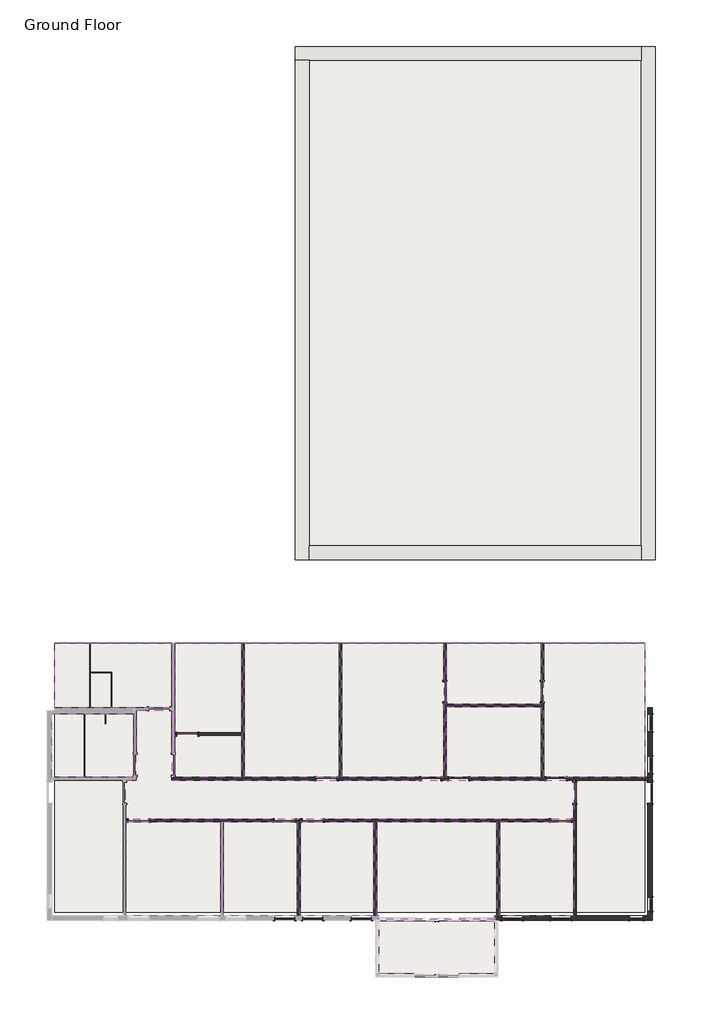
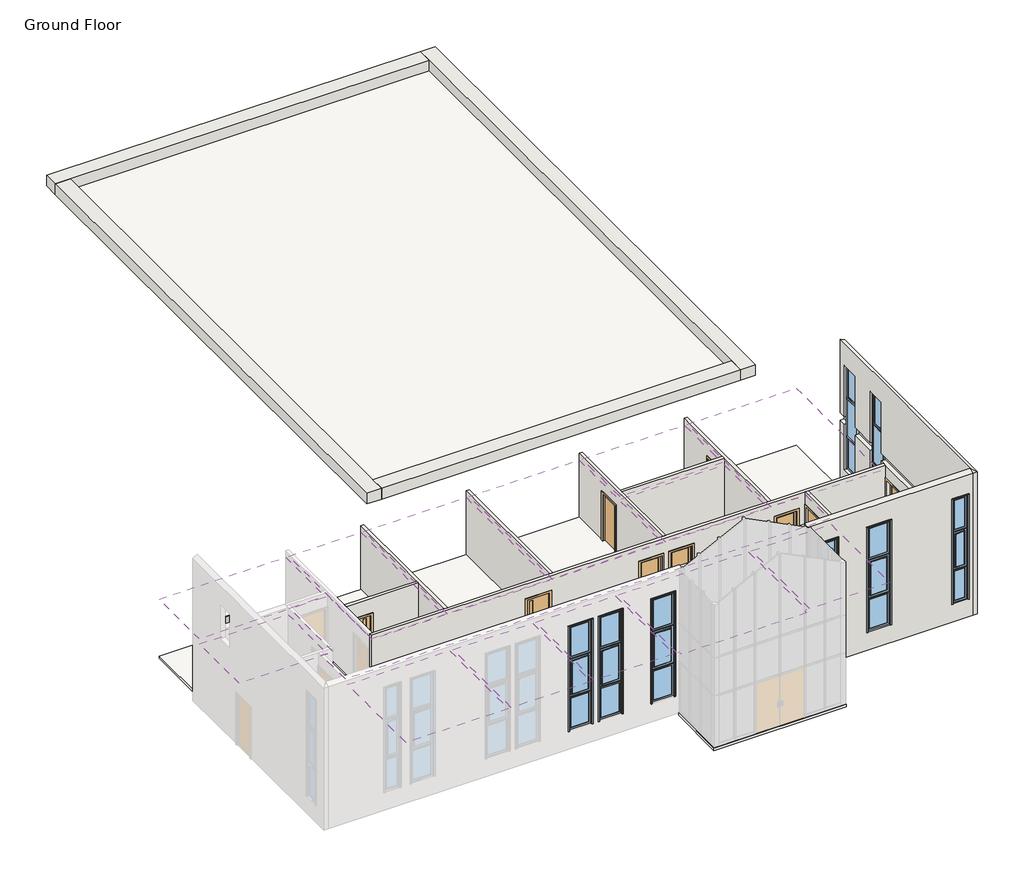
# One storey, part 3 of 3: 18 walls, 16 coverings, 12 doors, 9 windows, 4 proxies, 3 slabs.
"""IFC4 building model written with IfcOpenShell, lengths in millimetres."""

from ifc_helpers import new_model, si_unit, frame, origin, place, context, project, spatial, polyline, outline, extrude, faceted_brep, transform, mapped, element, save
from components import proxy_7c43ef90, toilet_stall_accessible_side2_3d_80249481, proxy_be33b337, urinal_screen_3d_0714b669, door_ecd1ec3f, door_2f6dbc15, door_8f6ecfa2, door_0094a902, door_1467a2ec, door_2696ad5b, door_2dc82d73, door_9b494dca, window_8adb934c, window_1e283364, window_fc414b9c

model = new_model("IFC4")

# Units and contexts
model_context = context("Model", 3, world=origin())
ifc_project = project(units=[si_unit("LENGTHUNIT", "METRE", prefix="MILLI")], contexts=[model_context])

# Site, building, storey
site = spatial("IfcSite", under=ifc_project)
building = spatial("IfcBuilding", under=site)
storey = spatial("IfcBuildingStorey", under=building, Name="Ground Floor", Elevation=39624.0)

# Proxies
placement = place(None, origin())
proxy_shape = proxy_7c43ef90(model_context)
element("IfcBuildingElementProxy", 1, Name="Toilet Stall-3D : 36\" x 60\" Clear", ObjectType="Toilet Stall-3D : 36\" x 60\" Clear", at=placement, inside=storey, context=model_context, shape_type="MappedRepresentation", body=[
    mapped(proxy_shape, transform((-23082.1885798, -6877.1269844, 39624.0), x_axis=(-1.0, 0.0, 0.0), y_axis=(0.0, -1.0, 0.0), z_axis=(0.0, 0.0, 1.0))),
])
toilet_stall_accessible_side2_3d_shape = toilet_stall_accessible_side2_3d_80249481(model_context)
element("IfcBuildingElementProxy", 2, Name="Toilet Stall-Accessible-Side2-3D : 60\" x  110\"", ObjectType="Toilet Stall-Accessible-Side2-3D : 60\" x  110\"", at=placement, inside=storey, context=model_context, shape_type="MappedRepresentation", body=[
    mapped(toilet_stall_accessible_side2_3d_shape, transform((-24874.4760798, -6877.1269844, 39624.0), x_axis=(-1.0, 0.0, 0.0), y_axis=(0.0, -1.0, 0.0), z_axis=(0.0, 0.0, 1.0))),
])
proxy_2_shape = proxy_be33b337(model_context)
element("IfcBuildingElementProxy", 3, Name="Toilet Stall-Accessible-Side2-3D : 60\" x 111\" Clear", ObjectType="Toilet Stall-Accessible-Side2-3D : 60\" x 111\" Clear", at=placement, inside=storey, context=model_context, shape_type="MappedRepresentation", body=[
    mapped(proxy_2_shape, transform((-24631.5885798, -6877.1269844, 39624.0), x_axis=(-1.0, 0.0, 0.0), y_axis=(0.0, -1.0, 0.0), z_axis=(0.0, 0.0, 1.0))),
])
urinal_screen_3d_shape = urinal_screen_3d_0714b669(model_context)
element("IfcBuildingElementProxy", 4, Name="Urinal Screen-3D : 36\" O.C.", ObjectType="Urinal Screen-3D : 36\" O.C.", at=placement, inside=storey, context=model_context, shape_type="MappedRepresentation", body=[
    mapped(urinal_screen_3d_shape, transform((-23272.7792336, -6877.1269844, 39624.0), x_axis=(-1.0, 0.0, 0.0), y_axis=(0.0, -1.0, 0.0), z_axis=(0.0, 0.0, 1.0))),
])

# Coverings
element("IfcCovering", 5, ObjectType="2' x 2' ACT System", at=placement, inside=storey, context=model_context, shape_type="SweptSolid", body=[
    extrude(outline(polyline([(-14763.7792336, -11750.7519844), (-11534.8042336, -11750.7519844), (-11534.8042336, -15862.3769844), (-14763.7792336, -15862.3769844), (-14763.7792336, -11750.7519844)])), frame((0.0, 0.0, 42062.4), z_axis=(0.0, 0.0, 1.0), x_axis=(1.0, 0.0, 0.0)), (0.0, 0.0, 1.0), 57.15),
])
element("IfcCovering", 6, ObjectType="2' x 2' ACT System", at=placement, inside=storey, context=model_context, shape_type="SweptSolid", body=[
    extrude(outline(polyline([(-20250.1792336, -9798.1269844), (-20250.1792336, -3927.5519844), (-17326.0042336, -3927.5519844), (-17326.0042336, -9798.1269844), (-20250.1792336, -9798.1269844)])), frame((0.0, 0.0, 42062.4), z_axis=(0.0, 0.0, 1.0), x_axis=(1.0, 0.0, 0.0)), (0.0, 0.0, 1.0), 57.15),
])
element("IfcCovering", 7, ObjectType="2' x 2' ACT System", at=placement, inside=storey, context=model_context, shape_type="SweptSolid", body=[
    extrude(outline(polyline([(-17202.1792336, -9798.1269844), (-17202.1792336, -3927.5519844), (-13058.8042336, -3927.5519844), (-13058.8042336, -9798.1269844), (-17202.1792336, -9798.1269844)])), frame((0.0, 0.0, 42062.4), z_axis=(0.0, 0.0, 1.0), x_axis=(1.0, 0.0, 0.0)), (0.0, 0.0, 1.0), 57.15),
])
element("IfcCovering", 8, ObjectType="2' x 2' ACT System", at=placement, inside=storey, context=model_context, shape_type="SweptSolid", body=[
    extrude(outline(polyline([(-12934.9792336, -9798.1269844), (-12934.9792336, -3927.5519844), (-8486.8042336, -3927.5519844), (-8486.8042336, -9798.1269844), (-12934.9792336, -9798.1269844)])), frame((0.0, 0.0, 42062.4), z_axis=(0.0, 0.0, 1.0), x_axis=(1.0, 0.0, 0.0)), (0.0, 0.0, 1.0), 57.15),
])
element("IfcCovering", 9, ObjectType="2' x 2' ACT System", at=placement, inside=storey, context=model_context, shape_type="SweptSolid", body=[
    extrude(outline(polyline([(-8362.9792336, -6597.7269844), (-8362.9792336, -3927.5519844), (-4219.6042336, -3927.5519844), (-4219.6042336, -6597.7269844), (-8362.9792336, -6597.7269844)])), frame((0.0, 0.0, 42062.4), z_axis=(0.0, 0.0, 1.0), x_axis=(1.0, 0.0, 0.0)), (0.0, 0.0, 1.0), 57.15),
])
element("IfcCovering", 10, ObjectType="2' x 2' ACT System", at=placement, inside=storey, context=model_context, shape_type="SweptSolid", body=[
    extrude(outline(polyline([(-4219.6042336, -9798.1269844), (-8362.9792336, -9798.1269844), (-8362.9792336, -6721.5519844), (-4219.6042336, -6721.5519844), (-4219.6042336, -9798.1269844)])), frame((0.0, 0.0, 42062.4), z_axis=(0.0, 0.0, 1.0), x_axis=(1.0, 0.0, 0.0)), (0.0, 0.0, 1.0), 57.15),
])
element("IfcCovering", 11, ObjectType="2' x 2' ACT System", at=placement, inside=storey, context=model_context, shape_type="SweptSolid", body=[
    extrude(outline(polyline([(-4095.7792336, -9798.1269844), (-4095.7792336, -3927.5519844), (312.7082664, -3927.5519844), (312.7082664, -9798.1269844), (-4095.7792336, -9798.1269844)])), frame((0.0, 0.0, 42062.4), z_axis=(0.0, 0.0, 1.0), x_axis=(1.0, 0.0, 0.0)), (0.0, 0.0, 1.0), 57.15),
])
element("IfcCovering", 12, ObjectType="2' x 2' ACT System", at=placement, inside=storey, context=model_context, shape_type="SweptSolid", body=[
    extrude(outline(polyline([(-2797.2042336, -11750.7519844), (-2797.2042336, -15862.3769844), (-6026.1792336, -15862.3769844), (-6026.1792336, -11750.7519844), (-2797.2042336, -11750.7519844)])), frame((0.0, 0.0, 42062.4), z_axis=(0.0, 0.0, 1.0), x_axis=(1.0, 0.0, 0.0)), (0.0, 0.0, 1.0), 57.15),
])
element("IfcCovering", 13, ObjectType="2' x 2' ACT System", at=placement, inside=storey, context=model_context, shape_type="SweptSolid", body=[
    extrude(outline(polyline([(-18116.5792336, -11750.7519844), (-14887.6042336, -11750.7519844), (-14887.6042336, -15862.3769844), (-18116.5792336, -15862.3769844), (-18116.5792336, -11750.7519844)])), frame((0.0, 0.0, 42062.4), z_axis=(0.0, 0.0, 1.0), x_axis=(1.0, 0.0, 0.0)), (0.0, 0.0, 1.0), 57.15),
])
element("IfcCovering", 14, ObjectType="2' x 2' ACT System", at=placement, inside=storey, context=model_context, shape_type="SweptSolid", body=[
    extrude(outline(polyline([(-22383.7792336, -15862.3769844), (-22383.7792336, -11750.7519844), (-18240.4042336, -11750.7519844), (-18240.4042336, -15862.3769844), (-22383.7792336, -15862.3769844)])), frame((0.0, 0.0, 42062.4), z_axis=(0.0, 0.0, 1.0), x_axis=(1.0, 0.0, 0.0)), (0.0, 0.0, 1.0), 57.15),
])
element("IfcCovering", 15, ObjectType="GWB on Mtl. Stud", at=placement, inside=storey, context=model_context, shape_type="SweptSolid", body=[
    extrude(outline(polyline([(-25493.6917336, -3927.5519844), (-20374.0042336, -3927.5519844), (-20374.0042336, -6746.9519844), (-21988.4917336, -6746.9519844), (-25493.6917336, -6746.9519844), (-25493.6917336, -3927.5519844)])), frame((0.0, 0.0, 42062.4), z_axis=(0.0, 0.0, 1.0), x_axis=(1.0, 0.0, 0.0)), (0.0, 0.0, 1.0), 107.95),
])
element("IfcCovering", 16, ObjectType="GWB on Mtl. Stud", at=placement, inside=storey, context=model_context, shape_type="SweptSolid", body=[
    extrude(outline(polyline([(-22050.4042336, -9798.1269844), (-25642.9167336, -9798.1269844), (-25642.9167336, -7007.3019844), (-22050.4042336, -7007.3019844), (-22050.4042336, -9798.1269844)])), frame((0.0, 0.0, 42062.4), z_axis=(0.0, 0.0, 1.0), x_axis=(1.0, 0.0, 0.0)), (0.0, 0.0, 1.0), 107.95),
])
element("IfcCovering", 17, ObjectType="GWB on Mtl. Stud", at=placement, inside=storey, context=model_context, shape_type="SweptSolid", body=[
    extrude(outline(polyline([(-22383.7792336, -9921.9519844), (-21926.5792336, -9921.9519844), (-21926.5792336, -6870.7769844), (-20374.0042336, -6870.7769844), (-20374.0042336, -9921.9519844), (-2797.2042336, -9921.9519844), (-2797.2042336, -11626.9269844), (-22383.7792336, -11626.9269844), (-22383.7792336, -9921.9519844)])), frame((0.0, 0.0, 42214.8), z_axis=(0.0, 0.0, 1.0), x_axis=(1.0, 0.0, 0.0)), (0.0, 0.0, 1.0), 107.95),
])
element("IfcCovering", 18, ObjectType="GWB on Mtl. Stud", at=placement, inside=storey, context=model_context, shape_type="SweptSolid", body=[
    extrude(outline(polyline([(-25493.6917336, -3927.5519844), (-20374.0042336, -3927.5519844), (-20374.0042336, -6746.9519844), (-21988.4917336, -6746.9519844), (-25493.6917336, -6746.9519844), (-25493.6917336, -3927.5519844)])), frame((0.0, 0.0, 42062.4), z_axis=(0.0, 0.0, 1.0), x_axis=(1.0, 0.0, 0.0)), (0.0, 0.0, 1.0), 107.95),
])
element("IfcCovering", 19, ObjectType="GWB on Mtl. Stud", at=placement, inside=storey, context=model_context, shape_type="SweptSolid", body=[
    extrude(outline(polyline([(-22050.4042336, -9798.1269844), (-25642.9167336, -9798.1269844), (-25642.9167336, -7007.3019844), (-22050.4042336, -7007.3019844), (-22050.4042336, -9798.1269844)])), frame((0.0, 0.0, 42062.4), z_axis=(0.0, 0.0, 1.0), x_axis=(1.0, 0.0, 0.0)), (0.0, 0.0, 1.0), 107.95),
])
element("IfcCovering", 20, ObjectType="GWB on Mtl. Stud", at=placement, inside=storey, context=model_context, shape_type="SweptSolid", body=[
    extrude(outline(polyline([(-6150.0042336, -11750.7519844), (-6150.0042336, -15862.3769844), (-6245.2542336, -15862.3769844), (-6245.2542336, -16017.9519844), (-11315.7292336, -16017.9519844), (-11315.7292336, -15862.3769844), (-11410.9792336, -15862.3769844), (-11410.9792336, -11750.7519844), (-6150.0042336, -11750.7519844)])), frame((0.0, 0.0, 42062.4), z_axis=(0.0, 0.0, 1.0), x_axis=(1.0, 0.0, 0.0)), (0.0, 0.0, 1.0), 107.95),
])

# Doors
door_shape = door_ecd1ec3f(model_context)
element("IfcDoor", 21, ObjectType="Single-Flush : 34\" x 80\"", at=placement, inside=storey, context=model_context, shape_type="MappedRepresentation", body=[
    mapped(door_shape, transform((-8424.8917336, -6050.0394844, 39624.0), x_axis=(0.0, -1.0, 0.0), y_axis=(1.0, 0.0, 0.0), z_axis=(0.0, 0.0, 1.0))),
])
door_2_shape = door_2f6dbc15(model_context)
element("IfcDoor", 22, ObjectType="Single-Flush : 34\" x 80\"", at=placement, inside=storey, context=model_context, shape_type="MappedRepresentation", body=[
    mapped(door_2_shape, transform((-4157.6917336, -6050.0394844, 39624.0), x_axis=(0.0, -1.0, 0.0), y_axis=(1.0, 0.0, 0.0), z_axis=(0.0, 0.0, 1.0))),
])
door_3_shape = door_8f6ecfa2(model_context)
element("IfcDoor", 23, ObjectType="Single-Flush Vision : 36\" x 80\"", at=placement, inside=storey, context=model_context, shape_type="MappedRepresentation", body=[
    mapped(door_3_shape, transform((-14216.0917336, -11688.8394844, 39624.0), x_axis=(-1.0, 0.0, 0.0), y_axis=(0.0, -1.0, 0.0), z_axis=(0.0, 0.0, 1.0))),
])
element("IfcDoor", 24, ObjectType="Single-Flush Vision : 36\" x 80\"", at=placement, inside=storey, context=model_context, shape_type="MappedRepresentation", body=[
    mapped(door_3_shape, transform((-13606.4917336, -9860.0394844, 39624.0), x_axis=(1.0, 0.0, 0.0), y_axis=(0.0, 1.0, 0.0), z_axis=(0.0, 0.0, 1.0))),
])
door_4_shape = door_0094a902(model_context)
element("IfcDoor", 25, ObjectType="Single-Flush Vision : 36\" x 80\"", at=placement, inside=storey, context=model_context, shape_type="MappedRepresentation", body=[
    mapped(door_4_shape, transform((-15435.2917336, -11688.8394844, 39624.0), x_axis=(1.0, 0.0, 0.0), y_axis=(0.0, 1.0, 0.0), z_axis=(0.0, 0.0, 1.0))),
])
element("IfcDoor", 26, ObjectType="Single-Flush Vision : 36\" x 80\"", at=placement, inside=storey, context=model_context, shape_type="MappedRepresentation", body=[
    mapped(door_4_shape, transform((-19702.4917336, -7904.2394844, 39624.0), x_axis=(-1.0, 0.0, 0.0), y_axis=(0.0, -1.0, 0.0), z_axis=(0.0, 0.0, 1.0))),
])
element("IfcDoor", 27, ObjectType="Single-Flush Vision : 36\" x 80\"", at=placement, inside=storey, context=model_context, shape_type="MappedRepresentation", body=[
    mapped(door_4_shape, transform((-3344.8917336, -11688.8394844, 39624.0), x_axis=(1.0, 0.0, 0.0), y_axis=(0.0, 1.0, 0.0), z_axis=(0.0, 0.0, 1.0))),
])
door_5_shape = door_1467a2ec(model_context)
element("IfcDoor", 28, ObjectType="Single-Flush Vision : 36\" x 84\"", at=placement, inside=storey, context=model_context, shape_type="MappedRepresentation", body=[
    mapped(door_5_shape, transform((-2735.2917336, -10469.6394844, 39624.0), x_axis=(0.0, 1.0, 0.0), y_axis=(-1.0, 0.0, 0.0), z_axis=(0.0, 0.0, 1.0))),
])
door_6_shape = door_2696ad5b(model_context)
element("IfcDoor", 29, ObjectType="Single-Glass 1 : 34\" x 80\"", at=placement, inside=storey, context=model_context, shape_type="MappedRepresentation", body=[
    mapped(door_6_shape, transform((-9034.4917336, -9860.0394844, 39624.0), x_axis=(1.0, 0.0, 0.0), y_axis=(0.0, 1.0, 0.0), z_axis=(0.0, 0.0, 1.0))),
])
door_7_shape = door_2dc82d73(model_context)
element("IfcDoor", 30, ObjectType="Single-Glass 1 : 34\" x 80\"", at=placement, inside=storey, context=model_context, shape_type="MappedRepresentation", body=[
    mapped(door_7_shape, transform((-3548.0917336, -9860.0394844, 39624.0), x_axis=(-1.0, 0.0, 0.0), y_axis=(0.0, -1.0, 0.0), z_axis=(0.0, 0.0, 1.0))),
])
element("IfcDoor", 31, ObjectType="Single-Glass 1 : 34\" x 80\"", at=placement, inside=storey, context=model_context, shape_type="MappedRepresentation", body=[
    mapped(door_7_shape, transform((-7815.2917336, -9860.0394844, 39624.0), x_axis=(-1.0, 0.0, 0.0), y_axis=(0.0, -1.0, 0.0), z_axis=(0.0, 0.0, 1.0))),
])
door_8_shape = door_9b494dca(model_context)
element("IfcDoor", 32, ObjectType="Single-Glass 1 : 36\" x 84\"", at=placement, inside=storey, context=model_context, shape_type="MappedRepresentation", body=[
    mapped(door_8_shape, transform((555.5957664, -10469.6394844, 39624.0), x_axis=(0.0, 1.0, 0.0), y_axis=(-1.0, 0.0, 0.0), z_axis=(0.0, 0.0, 1.0))),
])

# Slabs
element("IfcSlab", 33, ObjectType="LW Concrete on Metal Deck", at=placement, inside=storey, context=model_context, shape_type="SweptSolid", body=[
    extrude(outline(polyline([(-25493.6917336, -6877.1269844), (-25493.6917336, -3927.5519844), (312.7082664, -3927.5519844), (312.7082664, -15713.1519844), (-25493.6917336, -15713.1519844), (-25493.6917336, -6877.1269844)])), frame((0.0, 0.0, 39519.225), z_axis=(0.0, 0.0, 1.0), x_axis=(1.0, 0.0, 0.0)), (0.0, 0.0, 1.0), 104.775),
])
element("IfcSlab", 34, ObjectType="LW Concrete on Metal Deck", at=placement, inside=storey, context=model_context, shape_type="SweptSolid", body=[
    extrude(outline(polyline([(-11455.4292336, -16049.7019844), (-6105.5542336, -16049.7019844), (-6105.5542336, -18532.5519844), (-11455.4292336, -18532.5519844), (-11455.4292336, -16049.7019844)])), frame((0.0, 0.0, 39519.225), z_axis=(0.0, 0.0, 1.0), x_axis=(1.0, 0.0, 0.0)), (0.0, 0.0, 1.0), 104.775),
])
element("IfcSlab", 35, ObjectType="Pad 1", at=placement, inside=storey, context=model_context, shape_type="SweptSolid", body=[
    extrude(outline(polyline([(617.5082664, 22031.2480156), (617.5082664, -117.5519844), (-14825.6917336, -117.5519844), (-14825.6917336, 22031.2480156), (617.5082664, 22031.2480156)])), frame((0.0, 0.0, 40208.2), z_axis=(0.0, 0.0, 1.0), x_axis=(1.0, 0.0, 0.0)), (0.0, 0.0, 1.0), 25.4),
])

# Walls
element("IfcWall", 36, ObjectType="Exterior - Siding", at=placement, inside=storey, context=model_context, shape_type="Brep", body=[
    faceted_brep([(461.9332664, -15862.3769844, 39624.0), (-2673.3792336, -15862.3769844, 39624.0), (-2797.2042336, -15862.3769844, 39624.0), (-6026.1792336, -15862.3769844, 39624.0), (-6150.0042336, -15862.3769844, 39624.0), (-6245.2542336, -15862.3769844, 39624.0), (-6245.2542336, -15862.3769844, 42348.15), (-6150.0042336, -15862.3769844, 42348.15), (-6026.1792336, -15862.3769844, 42348.15), (-5935.6917336, -15862.3769844, 42348.15), (-5935.6917336, -15862.3769844, 40405.05), (-5021.2917336, -15862.3769844, 40405.05), (-5021.2917336, -15862.3769844, 42348.15), (-3802.0917336, -15862.3769844, 42348.15), (-3802.0917336, -15862.3769844, 40405.05), (-2887.6917336, -15862.3769844, 40405.05), (-2887.6917336, -15862.3769844, 42348.15), (-2797.2042336, -15862.3769844, 42348.15), (-2673.3792336, -15862.3769844, 42348.15), (-2673.3792336, -15862.3769844, 42672.0), (-2797.2042336, -15862.3769844, 42672.0), (-2887.6917336, -15862.3769844, 42672.0), (-2887.6917336, -15862.3769844, 44869.1), (-3802.0917336, -15862.3769844, 44869.1), (-3802.0917336, -15862.3769844, 42672.0), (-5021.2917336, -15862.3769844, 42672.0), (-5021.2917336, -15862.3769844, 44869.1), (-5935.6917336, -15862.3769844, 44869.1), (-5935.6917336, -15862.3769844, 42672.0), (-6026.1792336, -15862.3769844, 42672.0), (-6150.0042336, -15862.3769844, 42672.0), (-6245.2542336, -15862.3769844, 42672.0), (-6245.2542336, -15862.3769844, 45813.6625), (461.9332664, -15862.3769844, 45813.6625), (-358.8042336, -15862.3769844, 44869.1), (-358.8042336, -15862.3769844, 40405.05), (250.7957664, -15862.3769844, 40405.05), (250.7957664, -15862.3769844, 44869.1), (-6245.2542336, -16049.7019844, 39624.0), (461.9332664, -16049.7019844, 39624.0), (461.9332664, -16049.7019844, 45720.0), (-6181.7542336, -16049.7019844, 45720.0), (-6245.2542336, -16049.7019844, 45751.75), (-5935.6917336, -16049.7019844, 40405.05), (-5935.6917336, -16049.7019844, 44869.1), (-5021.2917336, -16049.7019844, 44869.1), (-5021.2917336, -16049.7019844, 40405.05), (-3802.0917336, -16049.7019844, 40405.05), (-3802.0917336, -16049.7019844, 44869.1), (-2887.6917336, -16049.7019844, 44869.1), (-2887.6917336, -16049.7019844, 40405.05), (-358.8042336, -16049.7019844, 40405.05), (-358.8042336, -16049.7019844, 44869.1), (250.7957664, -16049.7019844, 44869.1), (250.7957664, -16049.7019844, 40405.05), (-6245.2542336, -15986.2019844, 45751.75), (-6245.2542336, -16017.9519844, 42672.0), (-6245.2542336, -16017.9519844, 42348.15), (-5935.6917336, -16017.9519844, 42348.15), (-5935.6917336, -16017.9519844, 42672.0), (-5021.2917336, -16017.9519844, 42672.0), (-5021.2917336, -16017.9519844, 42348.15), (-3802.0917336, -16017.9519844, 42348.15), (-3802.0917336, -16017.9519844, 42672.0), (-2887.6917336, -16017.9519844, 42672.0), (-2887.6917336, -16017.9519844, 42348.15), (-2673.3792336, -16017.9519844, 42348.15), (-2673.3792336, -16017.9519844, 42672.0)], [[[0, 1, 2, 3, 4, 5, 6, 7, 8, 9, 10, 11, 12, 13, 14, 15, 16, 17, 18, 19, 20, 21, 22, 23, 24, 25, 26, 27, 28, 29, 30, 31, 32, 33], [34, 35, 36, 37]], [[38, 39, 40, 41, 42], [43, 44, 45, 46], [47, 48, 49, 50], [51, 52, 53, 54]], [[5, 4, 3, 2, 1, 0, 39, 38]], [[38, 42, 55, 32, 31, 56, 57, 6, 5]], [[0, 33, 40, 39]], [[43, 10, 9, 58, 59, 28, 27, 44]], [[10, 43, 46, 11]], [[45, 26, 25, 60, 61, 12, 11, 46]], [[44, 27, 26, 45]], [[47, 14, 13, 62, 63, 24, 23, 48]], [[14, 47, 50, 15]], [[49, 22, 21, 64, 65, 16, 15, 50]], [[48, 23, 22, 49]], [[35, 34, 52, 51]], [[36, 35, 51, 54]], [[37, 36, 54, 53]], [[34, 37, 53, 52]], [[40, 33, 32, 55, 41]], [[55, 42, 41]], [[57, 58, 9, 8, 7, 6]], [[61, 62, 13, 12]], [[65, 66, 18, 17, 16]], [[19, 67, 64, 21, 20]], [[59, 56, 31, 30, 29, 28]], [[63, 60, 25, 24]], [[66, 67, 19, 18]], [[67, 66, 65, 64]], [[58, 57, 56, 59]], [[62, 61, 60, 63]]]),
])
element("IfcWall", 37, ObjectType="Exterior - Siding", at=placement, inside=storey, context=model_context, shape_type="Brep", body=[
    faceted_brep([(461.9332664, -16049.7019844, 39624.0), (461.9332664, -16049.7019844, 45720.0), (461.9332664, -15862.3769844, 45813.6625), (461.9332664, -6746.9519844, 45813.6625), (461.9332664, -6746.9519844, 42672.0), (461.9332664, -7040.6394844, 42672.0), (461.9332664, -7040.6394844, 44869.1), (461.9332664, -7802.6394844, 44869.1), (461.9332664, -7802.6394844, 42672.0), (461.9332664, -8869.4394844, 42672.0), (461.9332664, -8869.4394844, 44869.1), (461.9332664, -9631.4394844, 44869.1), (461.9332664, -9631.4394844, 42672.0), (461.9332664, -9798.1269844, 42672.0), (461.9332664, -9921.9519844, 42672.0), (461.9332664, -12230.1769844, 42672.0), (461.9332664, -12230.1769844, 42348.15), (461.9332664, -9921.9519844, 42348.15), (461.9332664, -9798.1269844, 42348.15), (461.9332664, -9631.4394844, 42348.15), (461.9332664, -9631.4394844, 40405.05), (461.9332664, -8869.4394844, 40405.05), (461.9332664, -8869.4394844, 42348.15), (461.9332664, -7802.6394844, 42348.15), (461.9332664, -7802.6394844, 40405.05), (461.9332664, -7040.6394844, 40405.05), (461.9332664, -7040.6394844, 42348.15), (461.9332664, -6746.9519844, 42348.15), (461.9332664, -6746.9519844, 39624.0), (461.9332664, -9798.1269844, 39624.0), (461.9332664, -9921.9519844, 39624.0), (461.9332664, -10012.4394844, 39624.0), (461.9332664, -10012.4394844, 41757.6), (461.9332664, -10926.8394844, 41757.6), (461.9332664, -10926.8394844, 39624.0), (461.9332664, -15862.3769844, 39624.0), (461.9332664, -15651.2394844, 44869.1), (461.9332664, -15651.2394844, 40405.05), (461.9332664, -15041.6394844, 40405.05), (461.9332664, -15041.6394844, 44869.1), (649.2582664, -6746.9519844, 45720.0), (649.2582664, -16049.7019844, 45720.0), (649.2582664, -16049.7019844, 39624.0), (649.2582664, -10926.8394844, 39624.0), (649.2582664, -10926.8394844, 41757.6), (649.2582664, -10012.4394844, 41757.6), (649.2582664, -10012.4394844, 39624.0), (649.2582664, -6746.9519844, 39624.0), (649.2582664, -6746.9519844, 42672.0), (649.2582664, -15651.2394844, 40405.05), (649.2582664, -15651.2394844, 44869.1), (649.2582664, -15041.6394844, 44869.1), (649.2582664, -15041.6394844, 40405.05), (649.2582664, -9631.4394844, 40405.05), (649.2582664, -9631.4394844, 44869.1), (649.2582664, -8869.4394844, 44869.1), (649.2582664, -8869.4394844, 40405.05), (649.2582664, -7802.6394844, 40405.05), (649.2582664, -7802.6394844, 44869.1), (649.2582664, -7040.6394844, 44869.1), (649.2582664, -7040.6394844, 40405.05), (617.5082664, -6746.9519844, 42348.15), (617.5082664, -6746.9519844, 42672.0), (617.5082664, -9631.4394844, 42348.15), (617.5082664, -9631.4394844, 42672.0), (617.5082664, -8869.4394844, 42672.0), (617.5082664, -8869.4394844, 42348.15), (617.5082664, -7802.6394844, 42348.15), (617.5082664, -7802.6394844, 42672.0), (617.5082664, -7040.6394844, 42672.0), (617.5082664, -7040.6394844, 42348.15), (617.5082664, -12230.1769844, 42348.15), (617.5082664, -12230.1769844, 42672.0)], [[[0, 1, 2, 3, 4, 5, 6, 7, 8, 9, 10, 11, 12, 13, 14, 15, 16, 17, 18, 19, 20, 21, 22, 23, 24, 25, 26, 27, 28, 29, 30, 31, 32, 33, 34, 35], [36, 37, 38, 39]], [[40, 41, 42, 43, 44, 45, 46, 47, 48], [49, 50, 51, 52], [53, 54, 55, 56], [57, 58, 59, 60]], [[28, 47, 46, 31, 30, 29]], [[42, 0, 35, 34, 43]], [[40, 48, 47, 28, 27, 61, 62, 4, 3]], [[1, 0, 42, 41]], [[32, 31, 46, 45]], [[33, 32, 45, 44]], [[34, 33, 44, 43]], [[37, 36, 50, 49]], [[38, 37, 49, 52]], [[39, 38, 52, 51]], [[36, 39, 51, 50]], [[54, 53, 20, 19, 63, 64, 12, 11]], [[21, 20, 53, 56]], [[56, 55, 10, 9, 65, 66, 22, 21]], [[11, 10, 55, 54]], [[58, 57, 24, 23, 67, 68, 8, 7]], [[25, 24, 57, 60]], [[60, 59, 6, 5, 69, 70, 26, 25]], [[7, 6, 59, 58]], [[41, 40, 3, 2]], [[1, 41, 2]], [[16, 71, 63, 19, 18, 17]], [[66, 67, 23, 22]], [[70, 61, 27, 26]], [[64, 72, 15, 14, 13, 12]], [[68, 65, 9, 8]], [[62, 69, 5, 4]], [[71, 72, 64, 63]], [[67, 66, 65, 68]], [[61, 70, 69, 62]], [[72, 71, 16, 15]]]),
])
element("IfcWall", 38, ObjectType="Footing", at=placement, inside=storey, context=model_context, shape_type="Brep", body=[
    faceted_brep([(-14978.0917336, 21574.0480156, 40233.6), (-14368.4917336, 21574.0480156, 40233.6), (160.3082664, 21574.0480156, 40233.6), (160.3082664, 21574.0480156, 40690.8), (-14368.4917336, 21574.0480156, 40690.8), (-14978.0917336, 21574.0480156, 40690.8), (-14978.0917336, 22183.6480156, 40233.6), (-14978.0917336, 22183.6480156, 40690.8), (160.3082664, 22183.6480156, 40690.8), (160.3082664, 22183.6480156, 40233.6)], [[[0, 1, 2, 3, 4, 5]], [[6, 7, 8, 9]], [[2, 1, 0, 6, 9]], [[5, 4, 3, 8, 7]], [[0, 5, 7, 6]], [[3, 2, 9, 8]]]),
])
element("IfcWall", 39, ObjectType="Footing", at=placement, inside=storey, context=model_context, shape_type="Brep", body=[
    faceted_brep([(-14368.4917336, -269.9519844, 40233.6), (-14368.4917336, 339.6480156, 40233.6), (-14368.4917336, 21574.0480156, 40233.6), (-14368.4917336, 21574.0480156, 40690.8), (-14368.4917336, 339.6480156, 40690.8), (-14368.4917336, -269.9519844, 40690.8), (-14978.0917336, -269.9519844, 40233.6), (-14978.0917336, -269.9519844, 40690.8), (-14978.0917336, 21574.0480156, 40690.8), (-14978.0917336, 21574.0480156, 40233.6)], [[[0, 1, 2, 3, 4, 5]], [[6, 7, 8, 9]], [[2, 1, 0, 6, 9]], [[5, 4, 3, 8, 7]], [[0, 5, 7, 6]], [[3, 2, 9, 8]]]),
])
element("IfcWall", 40, ObjectType="Footing", at=placement, inside=storey, context=model_context, shape_type="SweptSolid", body=[
    extrude(outline(polyline([(-14368.4917336, 339.6480156), (160.3082664, 339.6480156), (160.3082664, -269.9519844), (-14368.4917336, -269.9519844), (-14368.4917336, 339.6480156)])), frame((0.0, 0.0, 40233.6), z_axis=(0.0, 0.0, 1.0), x_axis=(1.0, 0.0, 0.0)), (0.0, 0.0, 1.0), 457.2),
])
element("IfcWall", 41, ObjectType="Footing", at=placement, inside=storey, context=model_context, shape_type="Brep", body=[
    faceted_brep([(160.3082664, 22183.6480156, 40233.6), (160.3082664, 21574.0480156, 40233.6), (160.3082664, 339.6480156, 40233.6), (160.3082664, -269.9519844, 40233.6), (160.3082664, -269.9519844, 40690.8), (160.3082664, 339.6480156, 40690.8), (160.3082664, 21574.0480156, 40690.8), (160.3082664, 22183.6480156, 40690.8), (769.9082664, 22183.6480156, 40233.6), (769.9082664, 22183.6480156, 40690.8), (769.9082664, -269.9519844, 40690.8), (769.9082664, -269.9519844, 40233.6)], [[[0, 1, 2, 3, 4, 5, 6, 7]], [[8, 9, 10, 11]], [[3, 2, 1, 0, 8, 11]], [[7, 6, 5, 4, 10, 9]], [[0, 7, 9, 8]], [[4, 3, 11, 10]]]),
])
element("IfcWall", 42, ObjectType="Interior - 4 7/8\" Partition (1-hr)", at=placement, inside=storey, context=model_context, shape_type="Brep", body=[
    faceted_brep([(-2673.3792336, -10012.4394844, 41757.6), (-2673.3792336, -10012.4394844, 39624.0), (-2673.3792336, -9921.9519844, 39624.0), (-2673.3792336, -9921.9519844, 42348.15), (-2673.3792336, -12230.1769844, 42348.15), (-2673.3792336, -15862.3769844, 42348.15), (-2673.3792336, -15862.3769844, 39624.0), (-2673.3792336, -10926.8394844, 39624.0), (-2673.3792336, -10926.8394844, 41757.6), (-2797.2042336, -9921.9519844, 39624.0), (-2797.2042336, -10012.4394844, 39624.0), (-2797.2042336, -10012.4394844, 41757.6), (-2797.2042336, -10926.8394844, 41757.6), (-2797.2042336, -10926.8394844, 39624.0), (-2797.2042336, -11626.9269844, 39624.0), (-2797.2042336, -11750.7519844, 39624.0), (-2797.2042336, -15862.3769844, 39624.0), (-2797.2042336, -15862.3769844, 42348.15), (-2797.2042336, -11750.7519844, 42348.15), (-2797.2042336, -11626.9269844, 42348.15), (-2797.2042336, -9921.9519844, 42348.15)], [[[0, 1, 2, 3, 4, 5, 6, 7, 8]], [[9, 10, 11, 12, 13, 14, 15, 16, 17, 18, 19, 20]], [[2, 1, 10, 9]], [[7, 6, 16, 15, 14, 13]], [[6, 5, 17, 16]], [[3, 2, 9, 20]], [[5, 4, 3, 20, 19, 18, 17]], [[11, 10, 1, 0]], [[12, 11, 0, 8]], [[13, 12, 8, 7]]]),
])
element("IfcWall", 43, ObjectType="Interior - 4 7/8\" Partition (1-hr)", at=placement, inside=storey, context=model_context, shape_type="Brep", body=[
    faceted_brep([(-2797.2042336, -11626.9269844, 39624.0), (-2887.6917336, -11626.9269844, 39624.0), (-2887.6917336, -11626.9269844, 41656.0), (-3802.0917336, -11626.9269844, 41656.0), (-3802.0917336, -11626.9269844, 39624.0), (-13758.8917336, -11626.9269844, 39624.0), (-13758.8917336, -11626.9269844, 41656.0), (-14673.2917336, -11626.9269844, 41656.0), (-14673.2917336, -11626.9269844, 39624.0), (-14978.0917336, -11626.9269844, 39624.0), (-14978.0917336, -11626.9269844, 41656.0), (-15892.4917336, -11626.9269844, 41656.0), (-15892.4917336, -11626.9269844, 39624.0), (-21378.8917336, -11626.9269844, 39624.0), (-21378.8917336, -11626.9269844, 41757.6), (-22293.2917336, -11626.9269844, 41757.6), (-22293.2917336, -11626.9269844, 39624.0), (-22383.7792336, -11626.9269844, 39624.0), (-22383.7792336, -11626.9269844, 42348.15), (-2797.2042336, -11626.9269844, 42348.15), (-2887.6917336, -11750.7519844, 41656.0), (-2887.6917336, -11750.7519844, 39624.0), (-2797.2042336, -11750.7519844, 39624.0), (-2797.2042336, -11750.7519844, 42348.15), (-6026.1792336, -11750.7519844, 42348.15), (-6150.0042336, -11750.7519844, 42348.15), (-11410.9792336, -11750.7519844, 42348.15), (-11534.8042336, -11750.7519844, 42348.15), (-14763.7792336, -11750.7519844, 42348.15), (-14887.6042336, -11750.7519844, 42348.15), (-18116.5792336, -11750.7519844, 42348.15), (-18240.4042336, -11750.7519844, 42348.15), (-22383.7792336, -11750.7519844, 42348.15), (-22383.7792336, -11750.7519844, 39624.0), (-22293.2917336, -11750.7519844, 39624.0), (-22293.2917336, -11750.7519844, 41757.6), (-21378.8917336, -11750.7519844, 41757.6), (-21378.8917336, -11750.7519844, 39624.0), (-18240.4042336, -11750.7519844, 39624.0), (-18116.5792336, -11750.7519844, 39624.0), (-15892.4917336, -11750.7519844, 39624.0), (-15892.4917336, -11750.7519844, 41656.0), (-14978.0917336, -11750.7519844, 41656.0), (-14978.0917336, -11750.7519844, 39624.0), (-14887.6042336, -11750.7519844, 39624.0), (-14763.7792336, -11750.7519844, 39624.0), (-14673.2917336, -11750.7519844, 39624.0), (-14673.2917336, -11750.7519844, 41656.0), (-13758.8917336, -11750.7519844, 41656.0), (-13758.8917336, -11750.7519844, 39624.0), (-11534.8042336, -11750.7519844, 39624.0), (-11410.9792336, -11750.7519844, 39624.0), (-6150.0042336, -11750.7519844, 39624.0), (-6026.1792336, -11750.7519844, 39624.0), (-3802.0917336, -11750.7519844, 39624.0), (-3802.0917336, -11750.7519844, 41656.0)], [[[0, 1, 2, 3, 4, 5, 6, 7, 8, 9, 10, 11, 12, 13, 14, 15, 16, 17, 18, 19]], [[20, 21, 22, 23, 24, 25, 26, 27, 28, 29, 30, 31, 32, 33, 34, 35, 36, 37, 38, 39, 40, 41, 42, 43, 44, 45, 46, 47, 48, 49, 50, 51, 52, 53, 54, 55]], [[46, 45, 44, 43, 9, 8]], [[22, 21, 1, 0]], [[17, 16, 34, 33]], [[13, 12, 40, 39, 38, 37]], [[54, 53, 52, 51, 50, 49, 5, 4]], [[18, 17, 33, 32]], [[0, 19, 23, 22]], [[19, 18, 32, 31, 30, 29, 28, 27, 26, 25, 24, 23]], [[47, 46, 8, 7]], [[48, 47, 7, 6]], [[49, 48, 6, 5]], [[10, 9, 43, 42]], [[11, 10, 42, 41]], [[12, 11, 41, 40]], [[35, 34, 16, 15]], [[36, 35, 15, 14]], [[37, 36, 14, 13]], [[2, 1, 21, 20]], [[3, 2, 20, 55]], [[4, 3, 55, 54]]]),
])
element("IfcWall", 44, ObjectType="Interior - 4 7/8\" Partition (1-hr)", at=placement, inside=storey, context=model_context, shape_type="SweptSolid", body=[
    extrude(outline(polyline([(-14763.7792336, -11750.7519844), (-14763.7792336, -15862.3769844), (-14887.6042336, -15862.3769844), (-14887.6042336, -11750.7519844), (-14763.7792336, -11750.7519844)])), frame((0.0, 0.0, 39624.0), z_axis=(0.0, 0.0, 1.0), x_axis=(1.0, 0.0, 0.0)), (0.0, 0.0, 1.0), 2724.15),
])
element("IfcWall", 45, ObjectType="Interior - 4 7/8\" Partition (1-hr)", at=placement, inside=storey, context=model_context, shape_type="SweptSolid", body=[
    extrude(outline(polyline([(-11410.9792336, -11750.7519844), (-11410.9792336, -15862.3769844), (-11534.8042336, -15862.3769844), (-11534.8042336, -11750.7519844), (-11410.9792336, -11750.7519844)])), frame((0.0, 0.0, 39624.0), z_axis=(0.0, 0.0, 1.0), x_axis=(1.0, 0.0, 0.0)), (0.0, 0.0, 1.0), 2724.15),
])
element("IfcWall", 46, ObjectType="Interior - 4 7/8\" Partition (1-hr)", at=placement, inside=storey, context=model_context, shape_type="SweptSolid", body=[
    extrude(outline(polyline([(-6026.1792336, -11750.7519844), (-6026.1792336, -15862.3769844), (-6150.0042336, -15862.3769844), (-6150.0042336, -11750.7519844), (-6026.1792336, -11750.7519844)])), frame((0.0, 0.0, 39624.0), z_axis=(0.0, 0.0, 1.0), x_axis=(1.0, 0.0, 0.0)), (0.0, 0.0, 1.0), 2724.15),
])
element("IfcWall", 47, ObjectType="Interior - 4 7/8\" Partition (1-hr)", at=placement, inside=storey, context=model_context, shape_type="Brep", body=[
    faceted_brep([(-17326.0042336, -3927.5519844, 39624.0), (-17326.0042336, -7842.3269844, 39624.0), (-17326.0042336, -7966.1519844, 39624.0), (-17326.0042336, -9798.1269844, 39624.0), (-17326.0042336, -9798.1269844, 42348.15), (-17326.0042336, -7966.1519844, 42348.15), (-17326.0042336, -7842.3269844, 42348.15), (-17326.0042336, -3927.5519844, 42348.15), (-17202.1792336, -3927.5519844, 39624.0), (-17202.1792336, -3927.5519844, 42348.15), (-17202.1792336, -9798.1269844, 42348.15), (-17202.1792336, -9798.1269844, 39624.0)], [[[0, 1, 2, 3, 4, 5, 6, 7]], [[8, 9, 10, 11]], [[3, 2, 1, 0, 8, 11]], [[0, 7, 9, 8]], [[4, 3, 11, 10]], [[7, 6, 5, 4, 10, 9]]]),
])
element("IfcWall", 48, ObjectType="Interior - 4 7/8\" Partition (1-hr)", at=placement, inside=storey, context=model_context, shape_type="SweptSolid", body=[
    extrude(outline(polyline([(-13058.8042336, -9798.1269844), (-13058.8042336, -3927.5519844), (-12934.9792336, -3927.5519844), (-12934.9792336, -9798.1269844), (-13058.8042336, -9798.1269844)])), frame((0.0, 0.0, 39624.0), z_axis=(0.0, 0.0, 1.0), x_axis=(1.0, 0.0, 0.0)), (0.0, 0.0, 1.0), 2724.15),
])
element("IfcWall", 49, ObjectType="Interior - 4 7/8\" Partition (1-hr)", at=placement, inside=storey, context=model_context, shape_type="Brep", body=[
    faceted_brep([(-8486.8042336, -6481.8394844, 41656.0), (-8486.8042336, -6481.8394844, 39624.0), (-8486.8042336, -9798.1269844, 39624.0), (-8486.8042336, -9798.1269844, 42348.15), (-8486.8042336, -3927.5519844, 42348.15), (-8486.8042336, -3927.5519844, 39624.0), (-8486.8042336, -5618.2394844, 39624.0), (-8486.8042336, -5618.2394844, 41656.0), (-8362.9792336, -9798.1269844, 39624.0), (-8362.9792336, -6721.5519844, 39624.0), (-8362.9792336, -6597.7269844, 39624.0), (-8362.9792336, -6481.8394844, 39624.0), (-8362.9792336, -6481.8394844, 41656.0), (-8362.9792336, -5618.2394844, 41656.0), (-8362.9792336, -5618.2394844, 39624.0), (-8362.9792336, -3927.5519844, 39624.0), (-8362.9792336, -3927.5519844, 42348.15), (-8362.9792336, -6597.7269844, 42348.15), (-8362.9792336, -6721.5519844, 42348.15), (-8362.9792336, -9798.1269844, 42348.15)], [[[0, 1, 2, 3, 4, 5, 6, 7]], [[8, 9, 10, 11, 12, 13, 14, 15, 16, 17, 18, 19]], [[2, 1, 11, 10, 9, 8]], [[6, 5, 15, 14]], [[5, 4, 16, 15]], [[3, 2, 8, 19]], [[4, 3, 19, 18, 17, 16]], [[12, 11, 1, 0]], [[13, 12, 0, 7]], [[14, 13, 7, 6]]]),
])
element("IfcWall", 50, ObjectType="Interior - 4 7/8\" Partition (1-hr)", at=placement, inside=storey, context=model_context, shape_type="Brep", body=[
    faceted_brep([(-4219.6042336, -6481.8394844, 41656.0), (-4219.6042336, -6481.8394844, 39624.0), (-4219.6042336, -6597.7269844, 39624.0), (-4219.6042336, -6721.5519844, 39624.0), (-4219.6042336, -9798.1269844, 39624.0), (-4219.6042336, -9798.1269844, 42348.15), (-4219.6042336, -6721.5519844, 42348.15), (-4219.6042336, -6597.7269844, 42348.15), (-4219.6042336, -3927.5519844, 42348.15), (-4219.6042336, -3927.5519844, 39624.0), (-4219.6042336, -5618.2394844, 39624.0), (-4219.6042336, -5618.2394844, 41656.0), (-4095.7792336, -9798.1269844, 39624.0), (-4095.7792336, -6481.8394844, 39624.0), (-4095.7792336, -6481.8394844, 41656.0), (-4095.7792336, -5618.2394844, 41656.0), (-4095.7792336, -5618.2394844, 39624.0), (-4095.7792336, -3927.5519844, 39624.0), (-4095.7792336, -3927.5519844, 42348.15), (-4095.7792336, -9798.1269844, 42348.15)], [[[0, 1, 2, 3, 4, 5, 6, 7, 8, 9, 10, 11]], [[12, 13, 14, 15, 16, 17, 18, 19]], [[4, 3, 2, 1, 13, 12]], [[10, 9, 17, 16]], [[9, 8, 18, 17]], [[5, 4, 12, 19]], [[8, 7, 6, 5, 19, 18]], [[14, 13, 1, 0]], [[15, 14, 0, 11]], [[16, 15, 11, 10]]]),
])
element("IfcWall", 51, ObjectType="Interior - 4 7/8\" Partition (1-hr)", at=placement, inside=storey, context=model_context, shape_type="SweptSolid", body=[
    extrude(outline(polyline([(-4219.6042336, -6721.5519844), (-8362.9792336, -6721.5519844), (-8362.9792336, -6597.7269844), (-4219.6042336, -6597.7269844), (-4219.6042336, -6721.5519844)])), frame((0.0, 0.0, 39624.0), z_axis=(0.0, 0.0, 1.0), x_axis=(1.0, 0.0, 0.0)), (0.0, 0.0, 1.0), 2724.15),
])
element("IfcWall", 52, ObjectType="Interior - 4 7/8\" Partition (1-hr)", at=placement, inside=storey, context=model_context, shape_type="SweptSolid", body=[
    extrude(outline(polyline([(39624.0, -20250.1792336), (39624.0, -20159.6917336), (41656.0, -20159.6917336), (41656.0, -19245.2917336), (39624.0, -19245.2917336), (39624.0, -17326.0042336), (42348.15, -17326.0042336), (42348.15, -20250.1792336), (39624.0, -20250.1792336)])), frame((0.0, -7966.1519844, 0.0), z_axis=(0.0, 1.0, 0.0), x_axis=(0.0, 0.0, 1.0)), (0.0, 0.0, 1.0), 123.825),
])
element("IfcWall", 53, ObjectType="Interior - 4 7/8\" Partition (1-hr)", at=placement, inside=storey, context=model_context, shape_type="Brep", body=[
    faceted_brep([(-20374.0042336, -9921.9519844, 42348.15), (-20374.0042336, -9921.9519844, 39624.0), (-14063.6917336, -9921.9519844, 39624.0), (-14063.6917336, -9921.9519844, 41656.0), (-13149.2917336, -9921.9519844, 41656.0), (-13149.2917336, -9921.9519844, 39624.0), (-9466.2917336, -9921.9519844, 39624.0), (-9466.2917336, -9921.9519844, 41656.0), (-8602.6917336, -9921.9519844, 41656.0), (-8602.6917336, -9921.9519844, 39624.0), (-8247.0917336, -9921.9519844, 39624.0), (-8247.0917336, -9921.9519844, 41656.0), (-7383.4917336, -9921.9519844, 41656.0), (-7383.4917336, -9921.9519844, 39624.0), (-3979.8917336, -9921.9519844, 39624.0), (-3979.8917336, -9921.9519844, 41656.0), (-3116.2917336, -9921.9519844, 41656.0), (-3116.2917336, -9921.9519844, 39624.0), (-2797.2042336, -9921.9519844, 39624.0), (-2673.3792336, -9921.9519844, 39624.0), (461.9332664, -9921.9519844, 39624.0), (461.9332664, -9921.9519844, 42348.15), (-2673.3792336, -9921.9519844, 42348.15), (-2797.2042336, -9921.9519844, 42348.15), (-20374.0042336, -9798.1269844, 39624.0), (-20374.0042336, -9798.1269844, 42348.15), (-20250.1792336, -9798.1269844, 42348.15), (-17326.0042336, -9798.1269844, 42348.15), (-17202.1792336, -9798.1269844, 42348.15), (-13058.8042336, -9798.1269844, 42348.15), (-12934.9792336, -9798.1269844, 42348.15), (-8486.8042336, -9798.1269844, 42348.15), (-8362.9792336, -9798.1269844, 42348.15), (-4219.6042336, -9798.1269844, 42348.15), (-4095.7792336, -9798.1269844, 42348.15), (461.9332664, -9798.1269844, 42348.15), (461.9332664, -9798.1269844, 39624.0), (-3116.2917336, -9798.1269844, 39624.0), (-3116.2917336, -9798.1269844, 41656.0), (-3979.8917336, -9798.1269844, 41656.0), (-3979.8917336, -9798.1269844, 39624.0), (-4095.7792336, -9798.1269844, 39624.0), (-4219.6042336, -9798.1269844, 39624.0), (-7383.4917336, -9798.1269844, 39624.0), (-7383.4917336, -9798.1269844, 41656.0), (-8247.0917336, -9798.1269844, 41656.0), (-8247.0917336, -9798.1269844, 39624.0), (-8362.9792336, -9798.1269844, 39624.0), (-8486.8042336, -9798.1269844, 39624.0), (-8602.6917336, -9798.1269844, 39624.0), (-8602.6917336, -9798.1269844, 41656.0), (-9466.2917336, -9798.1269844, 41656.0), (-9466.2917336, -9798.1269844, 39624.0), (-12934.9792336, -9798.1269844, 39624.0), (-13058.8042336, -9798.1269844, 39624.0), (-13149.2917336, -9798.1269844, 39624.0), (-13149.2917336, -9798.1269844, 41656.0), (-14063.6917336, -9798.1269844, 41656.0), (-14063.6917336, -9798.1269844, 39624.0), (-17202.1792336, -9798.1269844, 39624.0), (-17326.0042336, -9798.1269844, 39624.0), (-20250.1792336, -9798.1269844, 39624.0)], [[[0, 1, 2, 3, 4, 5, 6, 7, 8, 9, 10, 11, 12, 13, 14, 15, 16, 17, 18, 19, 20, 21, 22, 23]], [[24, 25, 26, 27, 28, 29, 30, 31, 32, 33, 34, 35, 36, 37, 38, 39, 40, 41, 42, 43, 44, 45, 46, 47, 48, 49, 50, 51, 52, 53, 54, 55, 56, 57, 58, 59, 60, 61]], [[1, 24, 61, 60, 59, 58, 2]], [[36, 20, 19, 18, 17, 37]], [[5, 55, 54, 53, 52, 6]], [[9, 49, 48, 47, 46, 10]], [[40, 14, 13, 43, 42, 41]], [[1, 0, 25, 24]], [[21, 20, 36, 35]], [[0, 23, 22, 21, 35, 34, 33, 32, 31, 30, 29, 28, 27, 26, 25]], [[56, 55, 5, 4]], [[57, 56, 4, 3]], [[58, 57, 3, 2]], [[50, 49, 9, 8]], [[51, 50, 8, 7]], [[52, 51, 7, 6]], [[15, 14, 40, 39]], [[16, 15, 39, 38]], [[17, 16, 38, 37]], [[45, 11, 10, 46]], [[11, 45, 44, 12]], [[12, 44, 43, 13]]]),
])

# Windows
window_shape = window_8adb934c(model_context)
element("IfcWindow", 54, ObjectType="Window : 24\" W", at=placement, inside=storey, context=model_context, shape_type="MappedRepresentation", body=[
    mapped(window_shape, transform((-54.0042336, -15956.0394844, 39624.0), x_axis=(-1.0, 0.0, 0.0), y_axis=(0.0, -1.0, 0.0), z_axis=(0.0, 0.0, 1.0))),
])
element("IfcWindow", 55, ObjectType="Window : 24\" W", at=placement, inside=storey, context=model_context, shape_type="MappedRepresentation", body=[
    mapped(window_shape, transform((555.5957664, -15346.4394844, 39624.0), x_axis=(0.0, -1.0, 0.0), y_axis=(1.0, 0.0, 0.0), z_axis=(0.0, 0.0, 1.0))),
])
window_2_shape = window_1e283364(model_context)
element("IfcWindow", 56, ObjectType="Window : 30\" W", at=placement, inside=storey, context=model_context, shape_type="MappedRepresentation", body=[
    mapped(window_2_shape, transform((555.5957664, -9250.4394844, 39624.0), x_axis=(0.0, -1.0, 0.0), y_axis=(1.0, 0.0, 0.0), z_axis=(0.0, 0.0, 1.0))),
])
element("IfcWindow", 57, ObjectType="Window : 30\" W", at=placement, inside=storey, context=model_context, shape_type="MappedRepresentation", body=[
    mapped(window_2_shape, transform((555.5957664, -7421.6394844, 39624.0), x_axis=(0.0, -1.0, 0.0), y_axis=(1.0, 0.0, 0.0), z_axis=(0.0, 0.0, 1.0))),
])
window_3_shape = window_fc414b9c(model_context)
element("IfcWindow", 58, ObjectType="Window : 36\" W", at=placement, inside=storey, context=model_context, shape_type="MappedRepresentation", body=[
    mapped(window_3_shape, transform((-15435.2917336, -15956.0394844, 39624.0), x_axis=(-1.0, 0.0, 0.0), y_axis=(0.0, -1.0, 0.0), z_axis=(0.0, 0.0, 1.0))),
])
element("IfcWindow", 59, ObjectType="Window : 36\" W", at=placement, inside=storey, context=model_context, shape_type="MappedRepresentation", body=[
    mapped(window_3_shape, transform((-12082.4917336, -15956.0394844, 39624.0), x_axis=(-1.0, 0.0, 0.0), y_axis=(0.0, -1.0, 0.0), z_axis=(0.0, 0.0, 1.0))),
])
element("IfcWindow", 60, ObjectType="Window : 36\" W", at=placement, inside=storey, context=model_context, shape_type="MappedRepresentation", body=[
    mapped(window_3_shape, transform((-5478.4917336, -15956.0394844, 39624.0), x_axis=(-1.0, 0.0, 0.0), y_axis=(0.0, -1.0, 0.0), z_axis=(0.0, 0.0, 1.0))),
])
element("IfcWindow", 61, ObjectType="Window : 36\" W", at=placement, inside=storey, context=model_context, shape_type="MappedRepresentation", body=[
    mapped(window_3_shape, transform((-3344.8917336, -15956.0394844, 39624.0), x_axis=(-1.0, 0.0, 0.0), y_axis=(0.0, -1.0, 0.0), z_axis=(0.0, 0.0, 1.0))),
])
element("IfcWindow", 62, ObjectType="Window : 36\" W", at=placement, inside=storey, context=model_context, shape_type="MappedRepresentation", body=[
    mapped(window_3_shape, transform((-14216.0917336, -15956.0394844, 39624.0), x_axis=(-1.0, 0.0, 0.0), y_axis=(0.0, -1.0, 0.0), z_axis=(0.0, 0.0, 1.0))),
])

save(model, "model.ifc")
